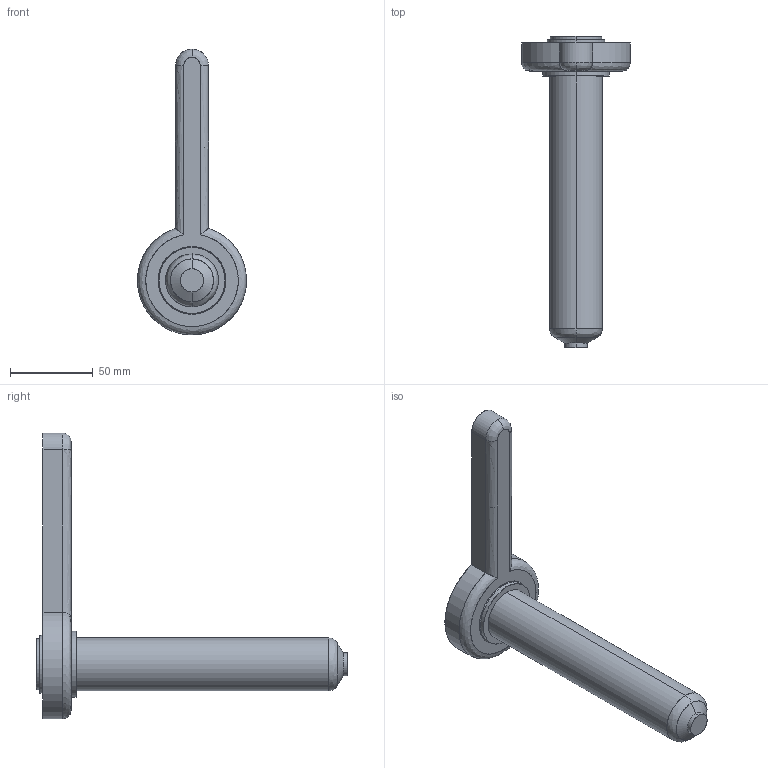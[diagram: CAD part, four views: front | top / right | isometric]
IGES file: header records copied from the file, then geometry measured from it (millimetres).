
Start section: SolidWorks IGES file using analytic representation for surfaces
Global section: file name: C:\Documents and Settings\ws-20\Desktop\TEM\Sede UGEP4104-S-A C-164 L-186 P-0.IGS; native system: SolidWorks 2012; preprocessor: SolidWorks 2012; author: ws-20; date: 120426.091245; units: millimetre
Bounding box: 65.99 x 188.42 x 173 mm (x, y, z)
Surface area: 33821.2 mm2 (no closed solid volume)
Topology: 0 solids, 0 shells, 34 faces, 786 edges, 786 vertices
Faces by surface type: revolution 21, bspline 13
